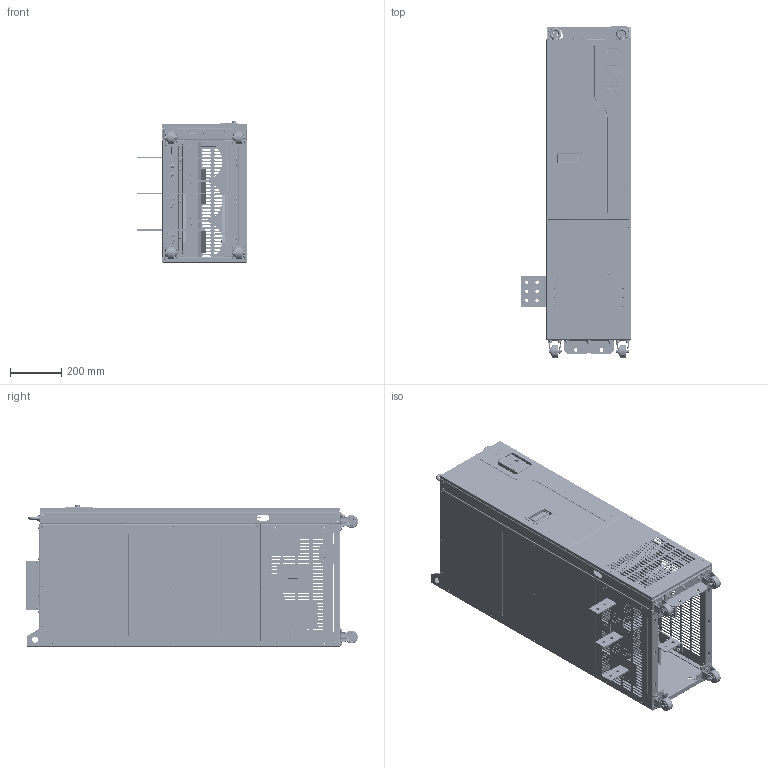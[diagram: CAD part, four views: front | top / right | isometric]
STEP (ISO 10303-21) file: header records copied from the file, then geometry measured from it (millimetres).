
FILE_DESCRIPTION((''),'2;1');
FILE_NAME('GD290-355P-4_ASM','2025-04-10T13:19:31',('Administrator'),(''),'CREO PARAMETRIC BY PTC INC, 2019080','CREO PARAMETRIC BY PTC INC, 2019080','');
FILE_SCHEMA(('CONFIG_CONTROL_DESIGN','SHAPE_APPEARANCE_LAYERS_GROUPS'));
Products named in the file (182): 80389359_2_1; S-M4-ZC_1_1; S-M6-ZC_1_1; SO-M4-10-ZC_1_1; BSO-M4-18-ZC_1_1; 80389359_ASM_2_ASM_1_ASM; 80389359SY_1_1; 80389359SY_ASM_1_ASM_1_ASM; 80386951_1_1; GB12618_2_4X10_ZC_1_1; 80386951_ASM_1_ASM_1_ASM; 80386944_1_1; SO-M4-16-ZC_1_1; 80386944_ASM_1_ASM_1_ASM; 80386967_1_1; 80386967_ASM_1_ASM_1_ASM; 80386989_1_1; NZ-M10-ZC_1_1; 80386989_ASM_1_ASM_1_ASM; WG-02-0003_1_1; GB819_1_M4X8_ZB_1_1; GB12617_2_4X10_ZC_1_1; 61062273_ASM_2_ASM_1_ASM; 80389328_2_1; 80389328_ASM_1_ASM_1_ASM; 80389328SY_1_1; 80389328SY_ASM_1_ASM_1_ASM; 80386984_ASM_1_ASM_1_ASM; 80386963_ASM_1_ASM_1_ASM; 80386978_ASM_1_ASM_1_ASM; 78470503_1_1; 78441718_1_1; 61062258_ASM_2_ASM_1_ASM; 80389361_1_1; TPR-4-12-SL_1_1; 80389361_ASM_1_ASM_1_ASM; 80441017_1_1; 61062272_ASM_1_ASM_1_ASM; 80386985_1_1; S-M5-ZC_1_1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
Assembly tree (832 placements, depth 8):
  GD290-355P-4_ASM
    GD270-355-4_ASM_4_ASM_1_ASM
      40801629_ASM_4_ASM_1_ASM
        61062257_ASM_2_ASM_1_ASM
          61062273_ASM_2_ASM_1_ASM
            80389359SY_ASM_1_ASM_1_ASM
              80389359_ASM_2_ASM_1_ASM
                80389359_2_1
                S-M4-ZC_1_1  x18
                S-M6-ZC_1_1  x4
                SO-M4-10-ZC_1_1  x4
                BSO-M4-18-ZC_1_1  x4
              80389359SY_1_1
            80386951_ASM_1_ASM_1_ASM
              80386951_1_1
              GB12618_2_4X10_ZC_1_1  x4
              S-M4-ZC_1_1  x4
            80386944_ASM_1_ASM_1_ASM
              80386944_1_1
              GB12618_2_4X10_ZC_1_1  x4
              SO-M4-16-ZC_1_1  x8
              S-M6-ZC_1_1  x2
            80386967_ASM_1_ASM_1_ASM  x5
              80386967_1_1
              S-M4-ZC_1_1
            80386989_ASM_1_ASM_1_ASM  x2
              80386989_1_1
              NZ-M10-ZC_1_1
            WG-02-0003_1_1
            GB819_1_M4X8_ZB_1_1  x4
            GB12617_2_4X10_ZC_1_1  x16
            GB12618_2_4X10_ZC_1_1  x36
          61062258_ASM_2_ASM_1_ASM
            80389328SY_ASM_1_ASM_1_ASM
              80389328_ASM_1_ASM_1_ASM
                80389328_2_1
                S-M4-ZC_1_1  x44
                S-M6-ZC_1_1  x6
              80389328SY_1_1
            80386984_ASM_1_ASM_1_ASM
              S-M6-ZC_1_1  x4
            80386963_ASM_1_ASM_1_ASM
              S-M6-ZC_1_1
            80386978_ASM_1_ASM_1_ASM
              S-M6-ZC_1_1
            78470503_1_1
            78441718_1_1  x3
            GB12618_2_4X10_ZC_1_1  x14
          61062272_ASM_1_ASM_1_ASM
            80389361_ASM_1_ASM_1_ASM
              80389361_1_1
              S-M4-ZC_1_1  x15
              S-M6-ZC_1_1  x6
              TPR-4-12-SL_1_1  x2
            80441017_1_1
            GB12617_2_4X10_ZC_1_1  x9
          61061686_ASM_1_ASM_1_ASM
            80386985_ASM_1_ASM_1_ASM
              80386985_1_1
              S-M4-ZC_1_1  x6
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Bounding box: 429.5 x 1293 x 553.72 mm (x, y, z)
Surface area: 9000384.5 mm2
Topology: 2 solids, 41621 shells, 41800 faces, 216907 edges, 216394 vertices
Faces by surface type: plane 27097, cylinder 8691, cone 3351, torus 1065, sphere 810, bspline 398, extrusion 388
Entity records: 719214 total; most frequent: CARTESIAN_POINT 249860, DIRECTION 86401, ORIENTED_EDGE 62278, EDGE_CURVE 62049, VERTEX_POINT 61964, VECTOR 39441, LINE 39053, AXIS2_PLACEMENT_3D 23480
